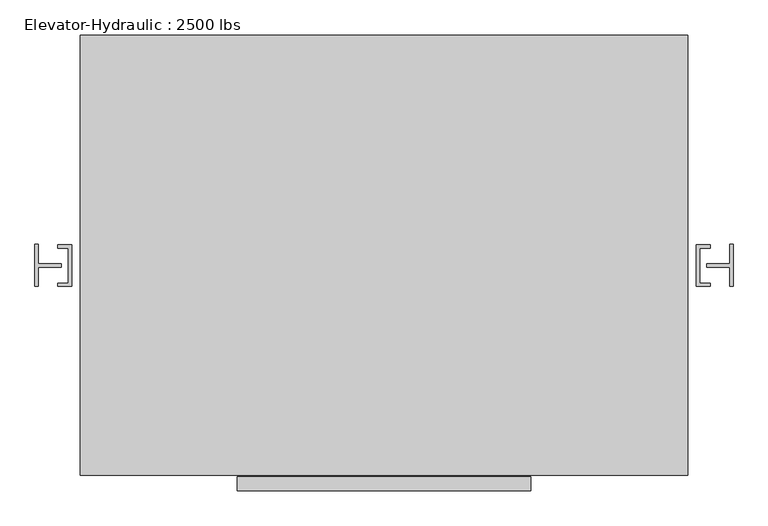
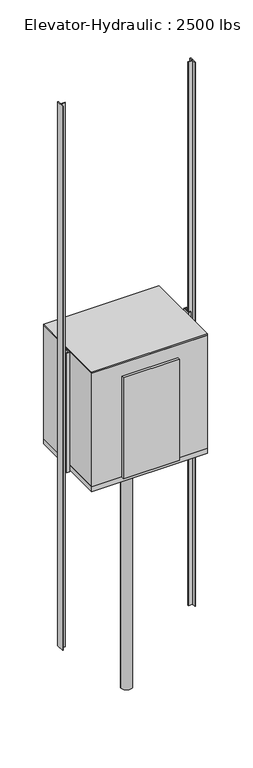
"""IFC4 building model written with IfcOpenShell, lengths in millimetres: proxy geometry, Elevator-Hydraulic : 2500 lbs."""

from ifc_helpers import new_model, si_unit, point, frame, frame_2d, origin, origin_with_axes, place, context, project, spatial, polyline, circle_curve, trimmed, segment, composite_curve, outline, extrude, faceted_brep, source, transform, mapped, element, save


def elevator_hydraulic_2500_lbs_0286828a(model_context):
    return source(origin(), model_context, "Body", "SolidModel", [
        extrude(outline(polyline([(540.8469965, -765.5281737), (540.8469965, -816.3281737), (-525.9530035, -816.3281737), (-525.9530035, -765.5281737), (540.8469965, -765.5281737)])), frame((0.0, 0.0, 3657.6), z_axis=(0.0, 0.0, 1.0), x_axis=(1.0, 0.0, 0.0)), (0.0, 0.0, 1.0), 2032.0),
        extrude(outline(polyline([(1112.3469965, 841.0218263), (1112.3469965, -759.1781737), (-1097.4530035, -759.1781737), (-1097.4530035, 841.0218263), (1112.3469965, 841.0218263)])), frame((0.0, 0.0, 5943.6), z_axis=(0.0, 0.0, 1.0), x_axis=(1.0, 0.0, 0.0)), (0.0, 0.0, 1.0), 25.4),
        extrude(outline(composite_curve([segment(trimmed(circle_curve(frame_2d((7.4469965, 2.8218263)), 101.6), [point((-94.1530035, 2.8218263))], [point((109.0469965, 2.8218263))], False, "CARTESIAN"), True, "CONTINUOUS"), segment(trimmed(circle_curve(frame_2d((7.4469965, 2.8218263)), 101.6), [point((109.0469965, 2.8218263))], [point((-94.1530035, 2.8218263))], False, "CARTESIAN"), True, "CONTINUOUS")], self_intersect=False)), frame((0.0, 0.0, -1219.2), z_axis=(0.0, 0.0, 1.0), x_axis=(1.0, 0.0, 0.0)), (0.0, 0.0, 1.0), 4775.2),
        faceted_brep([(1112.3469965, 841.0218263, 5943.6), (-1097.4530035, 841.0218263, 5943.6), (-1097.4530035, -759.1781737, 5943.6), (1112.3469965, -759.1781737, 5943.6), (1074.2469965, 802.9218263, 5943.6), (1074.2469965, -721.0781737, 5943.6), (-1059.3530035, -721.0781737, 5943.6), (-1059.3530035, 802.9218263, 5943.6), (1074.2469965, 802.9218263, 3657.6), (-1059.3530035, 802.9218263, 3657.6), (-1059.3530035, -721.0781737, 3657.6), (-525.9530035, -721.0781737, 3657.6), (-525.9530035, -759.1781737, 3657.6), (-1097.4530035, -759.1781737, 3657.6), (-1097.4530035, 841.0218263, 3657.6), (1112.3469965, 841.0218263, 3657.6), (1112.3469965, -759.1781737, 3657.6), (540.8469965, -759.1781737, 3657.6), (540.8469965, -721.0781737, 3657.6), (1074.2469965, -721.0781737, 3657.6), (540.8469965, -721.0781737, 5689.6), (-525.9530035, -721.0781737, 5689.6), (-525.9530035, -759.1781737, 5689.6), (540.8469965, -759.1781737, 5689.6)], [[[0, 1, 2, 3], [4, 5, 6, 7]], [[8, 9, 10, 11, 12, 13, 14, 15, 16, 17, 18, 19]], [[5, 4, 8, 19]], [[6, 5, 19, 18, 20, 21, 11, 10]], [[7, 6, 10, 9]], [[4, 7, 9, 8]], [[1, 0, 15, 14]], [[2, 1, 14, 13]], [[3, 2, 13, 12, 22, 23, 17, 16]], [[0, 3, 16, 15]], [[22, 21, 20, 23]], [[21, 22, 12, 11]], [[23, 20, 18, 17]]]),
        extrude(outline(polyline([(1112.3469965, 841.0218263), (1112.3469965, -759.1781737), (-1097.4530035, -759.1781737), (-1097.4530035, 841.0218263), (1112.3469965, 841.0218263)])), frame((0.0, 0.0, 3556.0), z_axis=(0.0, 0.0, 1.0), x_axis=(1.0, 0.0, 0.0)), (0.0, 0.0, 1.0), 101.6),
        extrude(outline(polyline([(-1129.2030035, 79.0218263), (-1129.2030035, -73.3781737), (-1180.0030035, -73.3781737), (-1180.0030035, -60.6781737), (-1141.9030035, -60.6781737), (-1141.9030035, 66.3218263), (-1180.0030035, 66.3218263), (-1180.0030035, 79.0218263), (-1129.2030035, 79.0218263)])), frame((0.0, 0.0, 3556.0), z_axis=(0.0, 0.0, 1.0), x_axis=(1.0, 0.0, 0.0)), (0.0, 0.0, 1.0), 2413.0),
        extrude(outline(polyline([(1144.0969965, 79.0218263), (1194.8969965, 79.0218263), (1194.8969965, 66.3218263), (1156.7969965, 66.3218263), (1156.7969965, -60.6781737), (1194.8969965, -60.6781737), (1194.8969965, -73.3781737), (1144.0969965, -73.3781737), (1144.0969965, 79.0218263)])), frame((0.0, 0.0, 3556.0), z_axis=(0.0, 0.0, 1.0), x_axis=(1.0, 0.0, 0.0)), (0.0, 0.0, 1.0), 2413.0),
        extrude(outline(polyline([(-1249.8530035, 79.0218263), (-1249.8530035, 9.1718263), (-1167.3030035, 9.1718263), (-1167.3030035, -3.5281737), (-1249.8530035, -3.5281737), (-1249.8530035, -73.3781737), (-1262.5530035, -73.3781737), (-1262.5530035, 79.0218263), (-1249.8530035, 79.0218263)])), origin_with_axes(), (0.0, 0.0, 1.0), 10972.8),
        extrude(outline(polyline([(1264.7469965, 79.0218263), (1277.4469965, 79.0218263), (1277.4469965, -73.3781737), (1264.7469965, -73.3781737), (1264.7469965, -3.5281737), (1182.1969965, -3.5281737), (1182.1969965, 9.1718263), (1264.7469965, 9.1718263), (1264.7469965, 79.0218263)])), origin_with_axes(), (0.0, 0.0, 1.0), 10972.8),
    ])


if __name__ == "__main__":
    model = new_model("IFC4")
    model_context = context("Model", 3, world=origin())
    ifc_project = project(units=[si_unit("LENGTHUNIT", "METRE", prefix="MILLI")], contexts=[model_context])
    site = spatial("IfcSite", under=ifc_project)
    building = spatial("IfcBuilding", under=site)
    placement = place(None, origin())
    elevator_hydraulic_2500_lbs_shape = elevator_hydraulic_2500_lbs_0286828a(model_context)
    element("IfcBuildingElementProxy", 1, Name="Elevator-Hydraulic : 2500 lbs", ObjectType="Elevator-Hydraulic : 2500 lbs", at=placement, inside=building, context=model_context, shape_type="MappedRepresentation", body=[
        mapped(elevator_hydraulic_2500_lbs_shape, transform((0.0, 0.0, 0.0), x_axis=(1.0, 0.0, 0.0), y_axis=(0.0, 1.0, 0.0), z_axis=(0.0, 0.0, 1.0))),
    ])
    save(model, "model.ifc")
